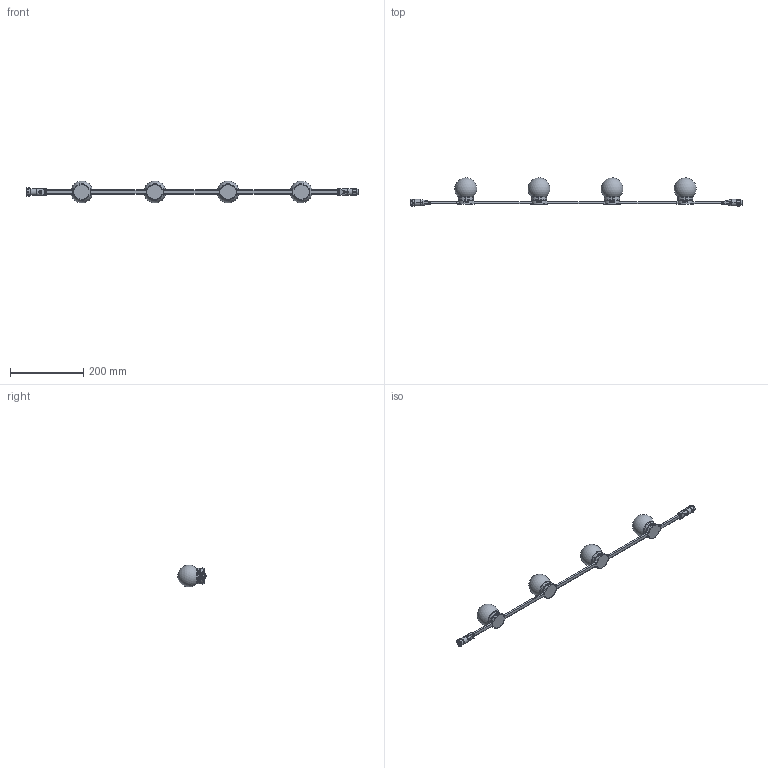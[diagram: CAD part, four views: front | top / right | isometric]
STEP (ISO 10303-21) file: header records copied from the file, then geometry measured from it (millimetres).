
FILE_DESCRIPTION (( 'STEP AP214' ), '1' );
FILE_NAME ('DiGi XT3 & 6 - Globe.STEP', '2025-08-19T07:19:27', ( '' ), ( '' ), 'SwSTEP 2.0', 'SolidWorks 2025', '' );
FILE_SCHEMA (( 'AUTOMOTIVE_DESIGN' ));
Length unit declared in the file: millimetre
Products named in the file (6): DiGi XT3 & 6 - Globe; DiGi Module XT3 & 6 - Body_XT3 RGBW; M16 3p Flat mold - Male; DiGi Module XT3 & 6 - Cover - Globe; Part9^DiGi XT3 & 6; M16 3p Flat mold - Female
Assembly tree (11 placements, depth 2):
  DiGi XT3 & 6 - Globe
    DiGi Module XT3 & 6 - Body_XT3 RGBW  x4
    Part9^DiGi XT3 & 6
    M16 3p Flat mold - Female
    M16 3p Flat mold - Male
    DiGi Module XT3 & 6 - Cover - Globe  x4
Bounding box: 907.71 x 77.51 x 59.87 mm (x, y, z)
Volume: 578491.6 mm3; surface area: 104730.2 mm2
Topology: 31 solids, 31 shells, 2511 faces, 5883 edges, 3407 vertices
Faces by surface type: bspline 1060, plane 578, cylinder 539, cone 204, sphere 76, torus 54
Full cylindrical faces by diameter (mm): 1.6 x3, 10.9 x1, 11.8 x1, 14.25 x1, 14.8 x1, 15.2 x1, 31.6 x8, 42 x4
Entity records: 87432 total; most frequent: CARTESIAN_POINT 52478, ORIENTED_EDGE 5878, DIRECTION 4128, EDGE_CURVE 2939, VERTEX_POINT 1762, AXIS2_PLACEMENT_3D 1620, EDGE_LOOP 1353, FACE_OUTER_BOUND 1291
